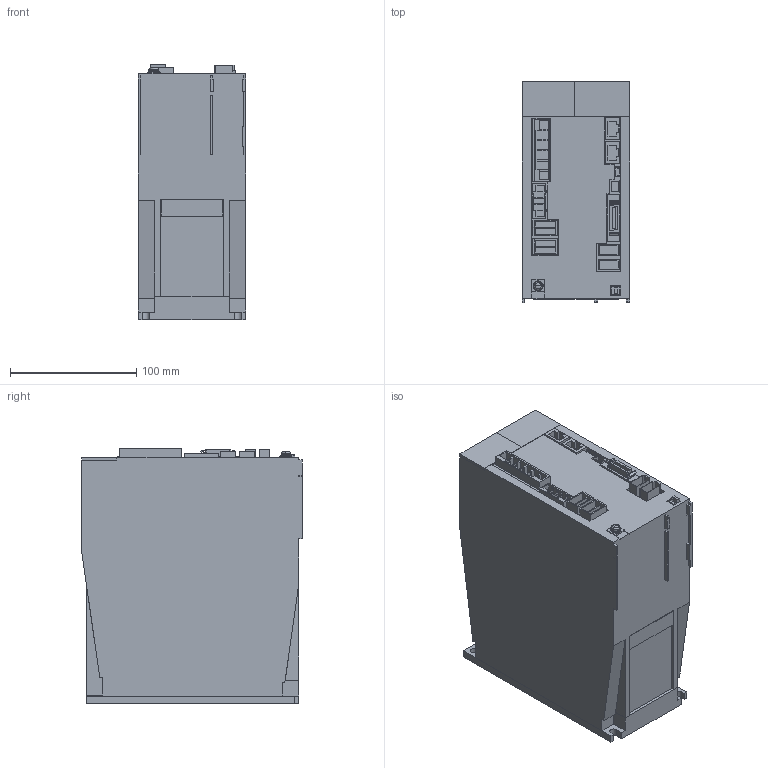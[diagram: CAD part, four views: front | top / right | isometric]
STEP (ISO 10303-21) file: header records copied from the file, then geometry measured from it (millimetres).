
FILE_DESCRIPTION((''),'2;1');
FILE_NAME('MR-J5W2-77G_ASM','2019-02-25T',('LB39600'),(''),'CREO PARAMETRIC BY PTC INC, 2017480','CREO PARAMETRIC BY PTC INC, 2017480','');
FILE_SCHEMA(('AUTOMOTIVE_DESIGN { 1 0 10303 214 1 1 1 1 }'));
Length unit declared in the file: millimetre
Products named in the file (21): J5W2-77G-CHASSIS; J5W2-77G-CASE; J5W2-77G-LENZ; J5W-LENZ; J5W2-77G-FANCOVER; FAN60; J5W-CN1A; J5W-CN1B; J5W-CN2A; J5W-CN2B; J5W-CN3; J5W-CN4; J5W-CN5; J5W-CN6; J5W-CN8; J5W2-77-CNP1; J5W2-77-CNP2; J5W-CNP3A; J5W-CNP3B; SW-PW-P-NA-M4X12-PE; MR-J5W2-77G_ASM
Assembly tree (20 placements, depth 2):
  MR-J5W2-77G_ASM
    J5W2-77G-CHASSIS
    J5W2-77G-CASE
    J5W2-77G-LENZ
    J5W-LENZ
    J5W2-77G-FANCOVER
    FAN60
    J5W-CN1A
    J5W-CN1B
    J5W-CN2A
    J5W-CN2B
    J5W-CN3
    J5W-CN4
    J5W-CN5
    J5W-CN6
    J5W-CN8
    J5W2-77-CNP1
    J5W2-77-CNP2
    J5W-CNP3A
    J5W-CNP3B
    SW-PW-P-NA-M4X12-PE
Bounding box: 85 x 175 x 202.1 mm (x, y, z)
Volume: 457213.5 mm3; surface area: 316412.5 mm2
Topology: 21 solids, 21 shells, 705 faces, 1940 edges, 1289 vertices
Faces by surface type: plane 608, cylinder 91, cone 2, torus 2, sphere 2
Entity records: 31340 total; most frequent: CARTESIAN_POINT 4034, ORIENTED_EDGE 3876, DIRECTION 3622, EDGE_CURVE 1938, VECTOR 1746, LINE 1746, VERTEX_POINT 1289, PRESENTATION_STYLE_ASSIGNMENT 981
